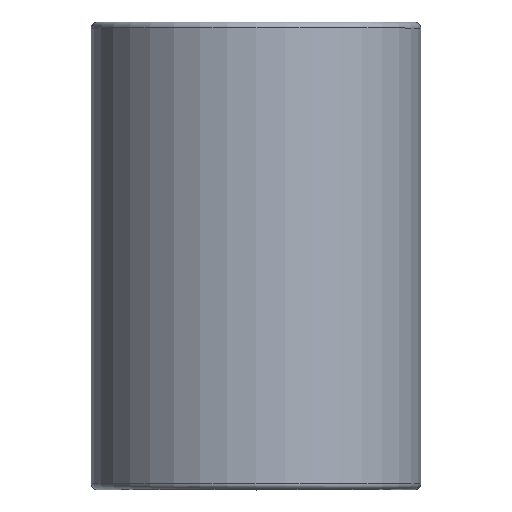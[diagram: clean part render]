
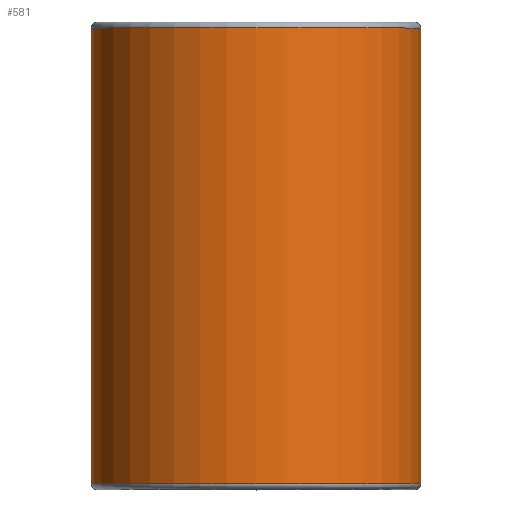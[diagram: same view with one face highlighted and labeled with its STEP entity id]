
A CAD part, top view. The second image highlights one B-rep face of the part: STEP entity #581.
In plain terms, the highlighted cylindrical face has radius 282 mm (diameter 564 mm), a full revolution.
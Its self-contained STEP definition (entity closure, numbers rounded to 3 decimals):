
#57=FACE_BOUND('',#191,.T.);
#123=FACE_OUTER_BOUND('',#190,.T.);
#190=EDGE_LOOP('',(#460));
#191=EDGE_LOOP('',(#461));
#284=CIRCLE('',#667,282.);
#286=CIRCLE('',#670,282.);
#338=VERTEX_POINT('',#1018);
#340=VERTEX_POINT('',#1023);
#392=EDGE_CURVE('',#338,#338,#284,.T.);
#394=EDGE_CURVE('',#340,#340,#286,.T.);
#460=ORIENTED_EDGE('',*,*,#394,.F.);
#461=ORIENTED_EDGE('',*,*,#392,.F.);
#542=CYLINDRICAL_SURFACE('',#669,282.);
#581=ADVANCED_FACE('',(#123,#57),#542,.T.);
#667=AXIS2_PLACEMENT_3D('',#1019,#826,#827);
#669=AXIS2_PLACEMENT_3D('',#1022,#830,#831);
#670=AXIS2_PLACEMENT_3D('',#1024,#832,#833);
#826=DIRECTION('center_axis',(0.,1.,0.));
#827=DIRECTION('ref_axis',(1.,0.,0.));
#830=DIRECTION('center_axis',(0.,1.,0.));
#831=DIRECTION('ref_axis',(1.,0.,0.));
#832=DIRECTION('center_axis',(0.,-1.,0.));
#833=DIRECTION('ref_axis',(1.,0.,0.));
#1018=CARTESIAN_POINT('',(-282.,390.,0.));
#1019=CARTESIAN_POINT('Origin',(0.,390.,0.));
#1022=CARTESIAN_POINT('Origin',(0.,0.,0.));
#1023=CARTESIAN_POINT('',(-282.,-390.,0.));
#1024=CARTESIAN_POINT('Origin',(0.,-390.,0.));
